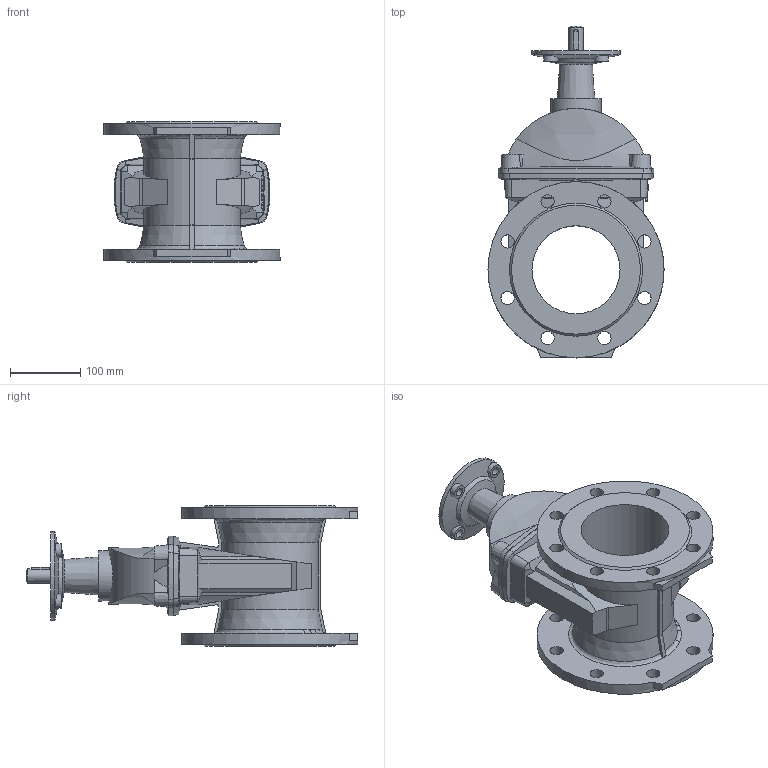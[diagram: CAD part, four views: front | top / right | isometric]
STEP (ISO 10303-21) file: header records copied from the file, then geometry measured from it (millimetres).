
FILE_DESCRIPTION (( 'STEP AP203' ), '1' );
FILE_NAME ('O_15_42_DN125_X1XXX099_AA0.step', '2017-03-10T08:39:08', ( 'Windows User' ), ( 'AVK' ), 'SwSTEP 2.0', 'SolidWorks 2012', '' );
FILE_SCHEMA (( 'CONFIG_CONTROL_DESIGN' ));
Length unit declared in the file: inch
Products named in the file (1): O_15_42_DN125_X1XXX099_AA0
Bounding box: 250 x 471 x 200 mm (x, y, z)
Volume: 4633856.7 mm3; surface area: 474339.9 mm2
Topology: 1 solids, 1 shells, 286 faces, 804 edges, 529 vertices
Faces by surface type: plane 138, cone 57, cylinder 48, bspline 39, torus 2, sphere 2
Full cylindrical faces by diameter (mm): 12 x4, 19 x16, 20 x5, 71 x1, 125 x2, 250 x2
Entity records: 10620 total; most frequent: CARTESIAN_POINT 3704, ORIENTED_EDGE 1468, DIRECTION 1287, EDGE_CURVE 734, VERTEX_POINT 502, AXIS2_PLACEMENT_3D 444, LINE 399, VECTOR 399
